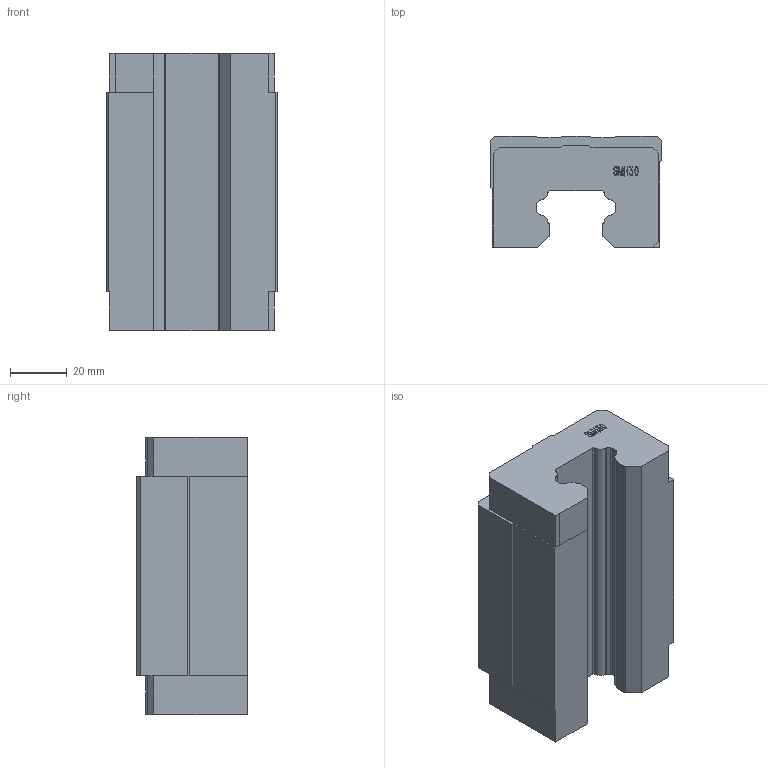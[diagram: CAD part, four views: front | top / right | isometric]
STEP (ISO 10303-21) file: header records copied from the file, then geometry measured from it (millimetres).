
FILE_DESCRIPTION (( 'STEP AP203' ), '1' );
FILE_NAME ('SMH30B.stp', '2019-09-25T01:31:30', ( 'pgos' ), ( '' ), 'SwSTEP 2.0', 'SolidWorks 2014', '' );
FILE_SCHEMA (( 'CONFIG_CONTROL_DESIGN' ));
Length unit declared in the file: millimetre
Products named in the file (1): SMH30B
Bounding box: 60 x 39 x 97.4 mm (x, y, z)
Volume: 171188.9 mm3; surface area: 27844.5 mm2
Topology: 1 solids, 1 shells, 212 faces, 597 edges, 397 vertices
Faces by surface type: plane 134, bspline 50, cylinder 28
Entity records: 9244 total; most frequent: CARTESIAN_POINT 3975, ORIENTED_EDGE 1194, DIRECTION 877, EDGE_CURVE 597, LINE 439, VECTOR 439, VERTEX_POINT 397, EDGE_LOOP 222
